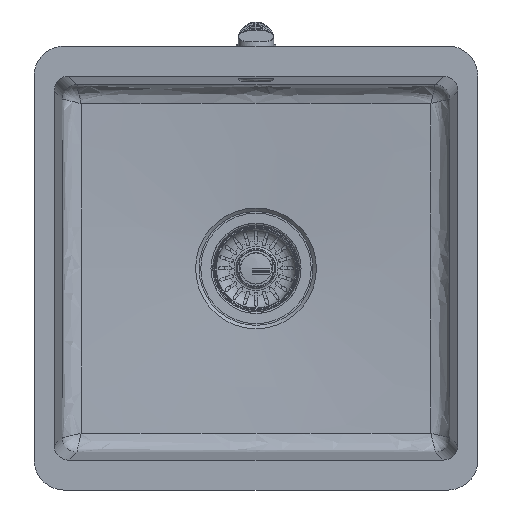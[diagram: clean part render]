
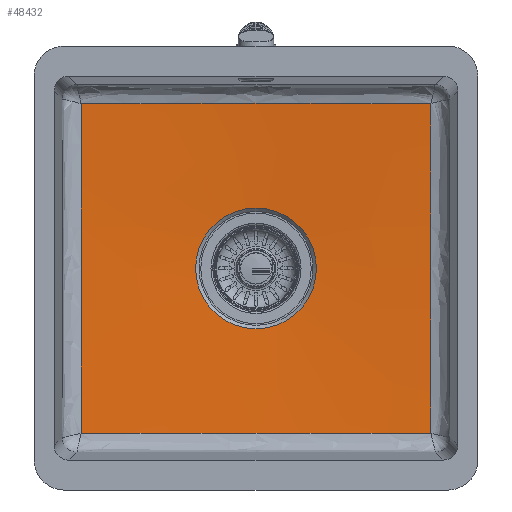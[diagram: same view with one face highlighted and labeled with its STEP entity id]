
A CAD part, top view. The second image highlights one B-rep face of the part: STEP entity #48432.
In plain terms, the highlighted conical face has half-angle 87 degrees and reference radius 202.767 mm.
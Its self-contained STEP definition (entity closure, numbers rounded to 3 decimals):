
#946=CONICAL_SURFACE('',#52910,202.766,87.);
#9834=FACE_OUTER_BOUND('',#14676,.T.);
#11900=FACE_BOUND('',#14677,.T.);
#14676=EDGE_LOOP('',(#44275));
#14677=EDGE_LOOP('',(#44276,#44277,#44278,#44279));
#17111=CIRCLE('',#52911,60.533);
#19184=B_SPLINE_CURVE_WITH_KNOTS('',3,(#102277,#102278,#102279,#102280,
#102281,#102282,#102283,#102284),.UNSPECIFIED.,.F.,.F.,(4,1,1,1,1,4),(-38.834,
-29.069,-23.936,-18.804,-13.671,
-3.906),.UNSPECIFIED.);
#19185=B_SPLINE_CURVE_WITH_KNOTS('',3,(#102334,#102335,#102336,#102337,
#102338,#102339,#102340),.UNSPECIFIED.,.F.,.F.,(4,1,1,1,4),(-36.831,
-27.638,-22.792,-13.099,-3.906),
 .UNSPECIFIED.);
#19187=B_SPLINE_CURVE_WITH_KNOTS('',3,(#102404,#102405,#102406,#102407,
#102408,#102409,#102410,#102411),.UNSPECIFIED.,.F.,.F.,(4,1,1,1,1,4),(-38.834,
-29.069,-23.936,-18.804,-8.538,
-3.906),.UNSPECIFIED.);
#19189=B_SPLINE_CURVE_WITH_KNOTS('',3,(#102469,#102470,#102471,#102472,
#102473,#102474,#102475),.UNSPECIFIED.,.F.,.F.,(4,1,1,1,4),(-36.831,
-27.638,-22.792,-13.099,-3.906),
 .UNSPECIFIED.);
#23524=VERTEX_POINT('',#101684);
#23529=VERTEX_POINT('',#101855);
#23534=VERTEX_POINT('',#102024);
#23539=VERTEX_POINT('',#102186);
#23545=VERTEX_POINT('',#102502);
#30498=EDGE_CURVE('',#23539,#23524,#19184,.T.);
#30499=EDGE_CURVE('',#23534,#23539,#19185,.T.);
#30501=EDGE_CURVE('',#23529,#23534,#19187,.T.);
#30503=EDGE_CURVE('',#23524,#23529,#19189,.T.);
#30514=EDGE_CURVE('',#23545,#23545,#17111,.T.);
#44275=ORIENTED_EDGE('',*,*,#30514,.F.);
#44276=ORIENTED_EDGE('',*,*,#30498,.F.);
#44277=ORIENTED_EDGE('',*,*,#30499,.F.);
#44278=ORIENTED_EDGE('',*,*,#30501,.F.);
#44279=ORIENTED_EDGE('',*,*,#30503,.F.);
#48432=ADVANCED_FACE('',(#9834,#11900),#946,.F.);
#52910=AXIS2_PLACEMENT_3D('',#102501,#64487,#64488);
#52911=AXIS2_PLACEMENT_3D('',#102503,#64489,#64490);
#64487=DIRECTION('center_axis',(0.,0.,
1.));
#64488=DIRECTION('ref_axis',(-1.,0.,0.));
#64489=DIRECTION('center_axis',(0.,0.,
1.));
#64490=DIRECTION('ref_axis',(-1.,0.,0.));
#101684=CARTESIAN_POINT('',(175.343,134.799,-167.543));
#101855=CARTESIAN_POINT('',(175.343,-195.799,-167.544));
#102024=CARTESIAN_POINT('',(-175.343,-195.799,-167.543));
#102186=CARTESIAN_POINT('',(-175.343,134.799,-167.544));
#102277=CARTESIAN_POINT('Ctrl Pts',(-175.343,134.8,
-167.544));
#102278=CARTESIAN_POINT('Ctrl Pts',(-142.752,134.805,-168.787));
#102279=CARTESIAN_POINT('Ctrl Pts',(-92.973,134.851,
-170.453));
#102280=CARTESIAN_POINT('Ctrl Pts',(-25.834,134.923,
-171.538));
#102281=CARTESIAN_POINT('Ctrl Pts',(25.834,134.923,-171.539));
#102282=CARTESIAN_POINT('Ctrl Pts',(92.972,134.851,-170.453));
#102283=CARTESIAN_POINT('Ctrl Pts',(142.752,134.805,-168.787));
#102284=CARTESIAN_POINT('Ctrl Pts',(175.343,134.8,-167.544));
#102334=CARTESIAN_POINT('Ctrl Pts',(-175.343,-195.799,
-167.543));
#102335=CARTESIAN_POINT('Ctrl Pts',(-175.352,-165.107,
-168.647));
#102336=CARTESIAN_POINT('Ctrl Pts',(-175.393,-118.179,
-170.087));
#102337=CARTESIAN_POINT('Ctrl Pts',(-175.469,-38.638,
-171.257));
#102338=CARTESIAN_POINT('Ctrl Pts',(-175.414,40.979,
-170.611));
#102339=CARTESIAN_POINT('Ctrl Pts',(-175.352,104.107,-168.648));
#102340=CARTESIAN_POINT('Ctrl Pts',(-175.343,134.799,
-167.544));
#102404=CARTESIAN_POINT('Ctrl Pts',(175.343,-195.8,-167.544));
#102405=CARTESIAN_POINT('Ctrl Pts',(142.752,-195.805,-168.787));
#102406=CARTESIAN_POINT('Ctrl Pts',(92.971,-195.85,
-170.452));
#102407=CARTESIAN_POINT('Ctrl Pts',(25.836,-195.924,
-171.538));
#102408=CARTESIAN_POINT('Ctrl Pts',(-43.062,-195.92,
-171.537));
#102409=CARTESIAN_POINT('Ctrl Pts',(-110.142,-195.823,
-169.914));
#102410=CARTESIAN_POINT('Ctrl Pts',(-159.884,-195.802,
-168.133));
#102411=CARTESIAN_POINT('Ctrl Pts',(-175.343,-195.799,
-167.543));
#102469=CARTESIAN_POINT('Ctrl Pts',(175.343,134.799,-167.543));
#102470=CARTESIAN_POINT('Ctrl Pts',(175.352,104.107,-168.647));
#102471=CARTESIAN_POINT('Ctrl Pts',(175.393,57.179,-170.087));
#102472=CARTESIAN_POINT('Ctrl Pts',(175.469,-22.362,-171.257));
#102473=CARTESIAN_POINT('Ctrl Pts',(175.414,-101.979,
-170.611));
#102474=CARTESIAN_POINT('Ctrl Pts',(175.352,-165.107,-168.648));
#102475=CARTESIAN_POINT('Ctrl Pts',(175.343,-195.799,
-167.544));
#102501=CARTESIAN_POINT('Origin',(0.,-30.5,
-169.546));
#102502=CARTESIAN_POINT('',(-60.533,-30.5,-177.));
#102503=CARTESIAN_POINT('Origin',(0.,-30.5,-177.));
